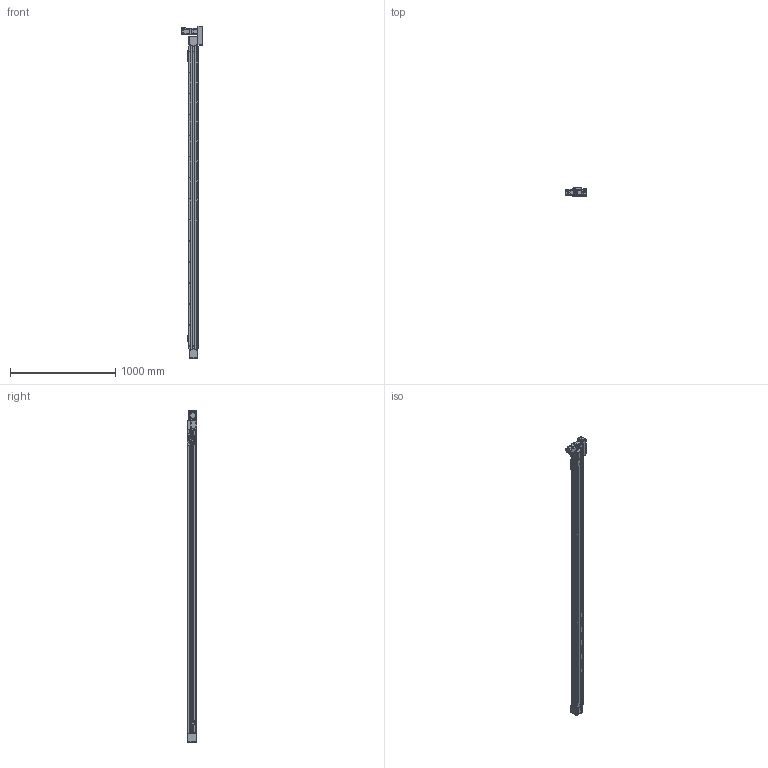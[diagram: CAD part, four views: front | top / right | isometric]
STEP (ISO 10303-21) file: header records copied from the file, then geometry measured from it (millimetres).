
FILE_DESCRIPTION(/* description */ ('MANUFACTURE'),/* implementation_level */ '2;1');
FILE_NAME(/* name */ '\\192.168.0.160\disk1\HAN SHIN Master\B-설계부문\C-표준\B-2024년\BC02-표준도면\+로봇 개선표준도면\홈페이지 표준 도면\홈페이지 최종 작업 폴더\3D\HSB\HSB75\R\HSB75-R2G-N-2700-L.stp',/* time_stamp */ '2025-04-30T14:13:57+09:00',/* author */ ('user'),/* organization */ (''),/* preprocessor_version */ 'ST-DEVELOPER v18.1',/* originating_system */ 'Autodesk Inventor 2022',/* authorisation */ 'LIP');
FILE_SCHEMA (('CONFIG_CONTROL_DESIGN'));
Products named in the file (37): HSB75-R2G-N-0500-L; HSB75 BASE; HSB75 TABLE; HSB75 FRONT HOUSING (Connecting); HSB75 FRONT COVER; UPCOVER; HS75 SIDE COVER; HSB75 REAR HOUSING; HSB75 REAR PULLEY; HSB55 REAR SHAFT; HSB55 TENSION PLATE; 6002ZZ; 6002ZZ Outer ring; 6002ZZ Shield1; 6002ZZ Inner ring; 6002ZZ Ball; 6002ZZ Shield2; HG90STOPPER - 27L; HSB55 ACRYL COVER; HSB75 ACRYL COVER-END; PGX62-H-1_3; hg-kr23_; MOTOR PLATE-200W(MITSUBISHI); HR75-LR-BELT COVER(200W); HR75-BELT COVER-COVER; HR75-BELT COVER-COVER2; HR65-BELT COVER-COVER3; HS75 SENSOR DOG-1; NIPPLE CAP(신규); hsr_ftht_A-M6F_grease_nipple_joint; HSB160 BEARING OVER; HSB75 END COVER; HSB75 MOTOR PLATE-N_대칭도; HSB160 SHAFT-1; C-E6304ZZ; SENSOR BRK(EE-SX674A); EE_SX674A
Assembly tree (63 placements, depth 3):
  HSB75-R2G-N-0500-L
    HSB75 BASE
    HSB75 TABLE
    HSB75 FRONT HOUSING (Connecting)
    HSB75 FRONT COVER  x2
    UPCOVER
    HS75 SIDE COVER  x2
    HSB75 REAR HOUSING
    HSB75 REAR PULLEY
    HSB55 REAR SHAFT
    HSB55 TENSION PLATE  x2
    6002ZZ  x2
      6002ZZ Outer ring
      6002ZZ Shield1
      6002ZZ Inner ring
      6002ZZ Ball
      6002ZZ Shield2
    HG90STOPPER - 27L  x2
    HSB55 ACRYL COVER  x3
    HSB75 ACRYL COVER-END
    PGX62-H-1_3
    hg-kr23_
    MOTOR PLATE-200W(MITSUBISHI)
    HR75-LR-BELT COVER(200W)
    HR75-BELT COVER-COVER
    HR75-BELT COVER-COVER2
    HR65-BELT COVER-COVER3  x2
    EE_SX674A  x3
    SENSOR BRK(EE-SX674A)  x3
    HS75 SENSOR DOG-1
    NIPPLE CAP(신규)  x2
    hsr_ftht_A-M6F_grease_nipple_joint  x2
    HSB160 BEARING OVER
    HSB75 END COVER
    HSB75 MOTOR PLATE-N_대칭도
    HSB160 SHAFT-1
    C-E6304ZZ  x2
Bounding box: 206.6 x 89 x 3156 mm (x, y, z)
Volume: 7915684.2 mm3; surface area: 3089491.9 mm2
Topology: 95 solids, 95 shells, 5460 faces, 15167 edges, 9973 vertices
Faces by surface type: plane 3933, cylinder 1111, cone 310, torus 45, sphere 42, bspline 19
Full cylindrical faces by diameter (mm): 2 x12, 2.013 x4, 2.459 x64, 3 x10, 3.242 x34, 3.3 x5, 3.4 x20, 3.5 x22, 4 x1, 4.134 x67, 4.2 x10, 4.343 x2, 4.5 x30, 4.917 x34, 5 x28, 5.5 x40, 5.6 x10, 5.8 x4, 5.9 x8, 6 x6, 6.5 x4, 7 x1, 8 x9, 8.5 x4, 9 x12, 9.5 x24, 12 x2, 14 x1, 14.2 x1, 14.3 x2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
Entity records: 148372 total; most frequent: CARTESIAN_POINT 29251, ORIENTED_EDGE 24442, DIRECTION 23695, EDGE_CURVE 12221, LINE 9077, VECTOR 9077, VERTEX_POINT 8102, AXIS2_PLACEMENT_3D 7309
